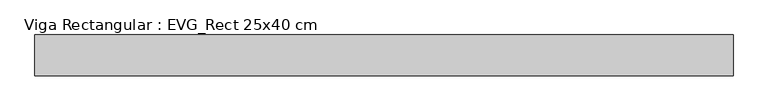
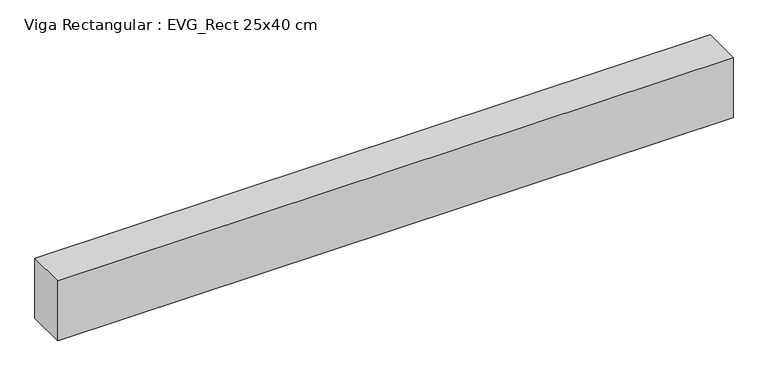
"""IFC4 building model written with IfcOpenShell, lengths in millimetres: beam geometry, Viga Rectangular : EVG_Rect 25x40 cm."""

import ifcopenshell
import ifcopenshell.guid

model = None  # the IFC model being written
_history = None  # IfcOwnerHistory: only IFC2X3 demands one
_inside = {}  # id of a spatial element -> (the spatial element, [elements in it])
_under = {}  # id of a project, library or spatial element -> (it, [spatial elements below it])
_declared = {}  # id of a project -> (the project, [libraries it declares])
_typed = {}  # id of a type object -> (the type object, [elements of that type])
_made_of = {}  # id of a material, layer set ... -> (it, [elements and type objects made of it])


def new_model(schema):
    """Start an empty IFC model of exactly this schema.

    Asked for "IFC4X3", IfcOpenShell would pick the latest addendum, in which some entities
    have other attributes; the version numbers below select the first issue.
    IFC2X3 requires an IfcOwnerHistory on every rooted entity: one is made here for all.
    """
    global model, _history
    if schema == "IFC4X3":
        model = ifcopenshell.file(schema_version=(4, 3, 0, 0))
    else:
        model = ifcopenshell.file(schema=schema)
    _inside.clear()
    _under.clear()
    _declared.clear()
    _typed.clear()
    _made_of.clear()
    _history = None
    if model.schema == "IFC2X3":
        org = make("IfcOrganization", Name="unknown")
        user = make(
            "IfcPersonAndOrganization",
            ThePerson=make("IfcPerson", FamilyName="unknown"),
            TheOrganization=org,
        )
        app = make(
            "IfcApplication",
            ApplicationDeveloper=org,
            Version="unknown",
            ApplicationFullName="unknown",
            ApplicationIdentifier="unknown",
        )
        _history = make(
            "IfcOwnerHistory",
            OwningUser=user,
            OwningApplication=app,
            ChangeAction="ADDED",
            CreationDate=0,
        )
    return model


def make(cls, **values):
    """One entity of the class cls with the attributes given. An attribute that is None is left unset."""
    return model.create_entity(
        cls, **{name: value for name, value in values.items() if value is not None}
    )


def rooted(cls, **values):
    """An entity with a GlobalId (a new one), such as an element, a storey or a relation."""
    return make(cls, GlobalId=ifcopenshell.guid.new(), OwnerHistory=_history, **values)


def si_unit(unit_type, name, prefix=None):
    """IfcSIUnit, for example si_unit("LENGTHUNIT", "METRE", prefix="MILLI")."""
    return make("IfcSIUnit", UnitType=unit_type, Prefix=prefix, Name=name)


def assignment(units):
    """IfcUnitAssignment: the units of a project."""
    return None if units is None else make("IfcUnitAssignment", Units=units)


def point(xyz):
    """IfcCartesianPoint."""
    return None if xyz is None else make("IfcCartesianPoint", Coordinates=xyz)


def direction(xyz):
    """IfcDirection."""
    return None if xyz is None else make("IfcDirection", DirectionRatios=xyz)


def frame(location, z_axis=None, x_axis=None):
    """IfcAxis2Placement3D, a coordinate frame: its origin and axes. An axis left out is left unset."""
    return make(
        "IfcAxis2Placement3D",
        Location=point(location),
        Axis=direction(z_axis),
        RefDirection=direction(x_axis),
    )


def origin():
    """The frame at (0, 0, 0) with its axes left unset."""
    return frame((0.0, 0.0, 0.0))


def place(relative_to, where):
    """IfcLocalPlacement: puts the frame where relative to a parent placement (None: the world)."""
    return make(
        "IfcLocalPlacement", PlacementRelTo=relative_to, RelativePlacement=where
    )


def context(
    kind, dimensions, precision=None, world=None, true_north=None, identifier=None
):
    """IfcGeometricRepresentationContext, for example the 3D "Model" context."""
    return make(
        "IfcGeometricRepresentationContext",
        ContextIdentifier=identifier,
        ContextType=kind,
        CoordinateSpaceDimension=dimensions,
        Precision=precision,
        WorldCoordinateSystem=world,
        TrueNorth=true_north,
    )


def project(units=None, contexts=None):
    """IfcProject with its units and contexts."""
    return rooted(
        "IfcProject",
        Name="project",
        RepresentationContexts=contexts,
        UnitsInContext=assignment(units),
    )


def spatial(cls, under=None, at=None, **own):
    """A site, building, storey or space (cls), placed at a placement, below another one or the project."""
    s = rooted(cls, ObjectPlacement=at, **own)
    if under is not None:
        _under.setdefault(under.id(), (under, []))[1].append(s)
    return s


def polyline(points):
    """IfcPolyline through the points."""
    return make("IfcPolyline", Points=[point(p) for p in points])


def outline(outer, holes=None, kind="AREA"):
    """IfcArbitraryClosedProfileDef: a profile drawn as a closed curve; with holes, ...WithVoids."""
    if holes is None:
        return make("IfcArbitraryClosedProfileDef", ProfileType=kind, OuterCurve=outer)
    return make(
        "IfcArbitraryProfileDefWithVoids",
        ProfileType=kind,
        OuterCurve=outer,
        InnerCurves=holes,
    )


def extrude(swept, where, along, depth):
    """IfcExtrudedAreaSolid: the profile swept, set in the frame where, extruded along a direction by depth."""
    return make(
        "IfcExtrudedAreaSolid",
        SweptArea=swept,
        Position=where,
        ExtrudedDirection=direction(along),
        Depth=depth,
    )


def shape(context_of_items, identifier, shape_type, items):
    """IfcShapeRepresentation: the items that make up one representation, for example the "Body"."""
    return make(
        "IfcShapeRepresentation",
        ContextOfItems=context_of_items,
        RepresentationIdentifier=identifier,
        RepresentationType=shape_type,
        Items=items,
    )


def source(mapping_origin, context_of_items, identifier, shape_type, items):
    """IfcRepresentationMap: a shape defined once, which mapped items show again and again."""
    return make(
        "IfcRepresentationMap",
        MappingOrigin=mapping_origin,
        MappedRepresentation=shape(context_of_items, identifier, shape_type, items),
    )


def transform(
    local_origin,
    x_axis=None,
    y_axis=None,
    z_axis=None,
    scale=None,
    scale2=None,
    scale3=None,
    uniform=True,
):
    """IfcCartesianTransformationOperator3D, or its non-uniform kind. x_axis, y_axis, z_axis: its Axis1, 2, 3."""
    if uniform:
        return make(
            "IfcCartesianTransformationOperator3D",
            Axis1=direction(x_axis),
            Axis2=direction(y_axis),
            LocalOrigin=point(local_origin),
            Scale=scale,
            Axis3=direction(z_axis),
        )
    return make(
        "IfcCartesianTransformationOperator3DnonUniform",
        Axis1=direction(x_axis),
        Axis2=direction(y_axis),
        LocalOrigin=point(local_origin),
        Scale=scale,
        Axis3=direction(z_axis),
        Scale2=scale2,
        Scale3=scale3,
    )


def mapped(mapping_source, mapping_target):
    """IfcMappedItem: shows the shape of a source again, moved by a transform."""
    return make(
        "IfcMappedItem", MappingSource=mapping_source, MappingTarget=mapping_target
    )


def made_of(thing, what):
    """Note that an element or type object is made of a material, layer set ...; save() writes the relation."""
    if what is not None:
        _made_of.setdefault(what.id(), (what, []))[1].append(thing)
    return thing


def element(
    cls,
    number,
    at=None,
    inside=None,
    cuts=None,
    type_object=None,
    material=None,
    context=None,
    identifier="Body",
    shape_type=None,
    held_by="IfcProductDefinitionShape",
    body=None,
    shapes=None,
    **own,
):
    """One element of the class cls, such as IfcWall. Its Tag is "e" and its number.

    at: its placement. inside: the storey or other place that contains it. cuts: it is an
    opening in that element (IfcRelVoidsElement). A single representation is given by context,
    identifier, shape_type and body (its items); several are given by shapes. held_by: the class
    of the entity that holds the representations. save() writes the other relations.
    """
    e = rooted(cls, Tag="e%d" % number, ObjectPlacement=at, **own)
    if body is not None:
        shapes = [shape(context, identifier, shape_type, body)]
    if shapes is not None:
        e.Representation = make(held_by, Representations=shapes)
    if inside is not None:
        _inside.setdefault(inside.id(), (inside, []))[1].append(e)
    if cuts is not None:
        rooted(
            "IfcRelVoidsElement", RelatingBuildingElement=cuts, RelatedOpeningElement=e
        )
    if type_object is not None:
        _typed.setdefault(type_object.id(), (type_object, []))[1].append(e)
    return made_of(e, material)


def aggregate(whole, parts):
    """IfcRelAggregates: a whole, such as a stair, and the parts it consists of."""
    return rooted("IfcRelAggregates", RelatingObject=whole, RelatedObjects=parts)


def save(model, path):
    """Write the relations noted so far, then the file.

    IfcRelAggregates (storeys below a building ...), IfcRelContainedInSpatialStructure (elements
    in a storey), IfcRelDefinesByType, IfcRelAssociatesMaterial and IfcRelDeclares: one each for
    every whole, place, type object, material and project.
    """
    for whole, parts in _under.values():
        aggregate(whole, parts)
    for where, things in _inside.values():
        rooted(
            "IfcRelContainedInSpatialStructure",
            RelatedElements=things,
            RelatingStructure=where,
        )
    for kind, things in _typed.values():
        rooted("IfcRelDefinesByType", RelatedObjects=things, RelatingType=kind)
    for what, things in _made_of.values():
        rooted("IfcRelAssociatesMaterial", RelatedObjects=things, RelatingMaterial=what)
    for by, libraries in _declared.values():
        rooted("IfcRelDeclares", RelatingContext=by, RelatedDefinitions=libraries)
    model.write(path)


def viga_rectangular_evg_rect_25x40_cm_1dd9ab3c(model_context):
    return source(origin(), model_context, "Body", "SweptSolid", [
        extrude(outline(polyline([(2100.0, 125.0), (2100.0, -125.0), (-2150.0, -125.0), (-2150.0, 125.0), (2100.0, 125.0)])), frame((0.0, 0.0, -400.0), z_axis=(0.0, 0.0, 1.0), x_axis=(1.0, 0.0, 0.0)), (0.0, 0.0, 1.0), 400.0),
    ])


if __name__ == "__main__":
    model = new_model("IFC4")
    model_context = context("Model", 3, world=origin())
    ifc_project = project(units=[si_unit("LENGTHUNIT", "METRE", prefix="MILLI")], contexts=[model_context])
    site = spatial("IfcSite", under=ifc_project)
    building = spatial("IfcBuilding", under=site)
    placement = place(None, origin())
    viga_rectangular_evg_rect_25x40_cm_shape = viga_rectangular_evg_rect_25x40_cm_1dd9ab3c(model_context)
    element("IfcBeam", 1, ObjectType="Viga Rectangular : EVG_Rect 25x40 cm", at=placement, inside=building, context=model_context, shape_type="MappedRepresentation", body=[
        mapped(viga_rectangular_evg_rect_25x40_cm_shape, transform((0.0, 0.0, 0.0), x_axis=(1.0, 0.0, 0.0), y_axis=(0.0, 1.0, 0.0), z_axis=(0.0, 0.0, 1.0))),
    ])
    save(model, "model.ifc")
